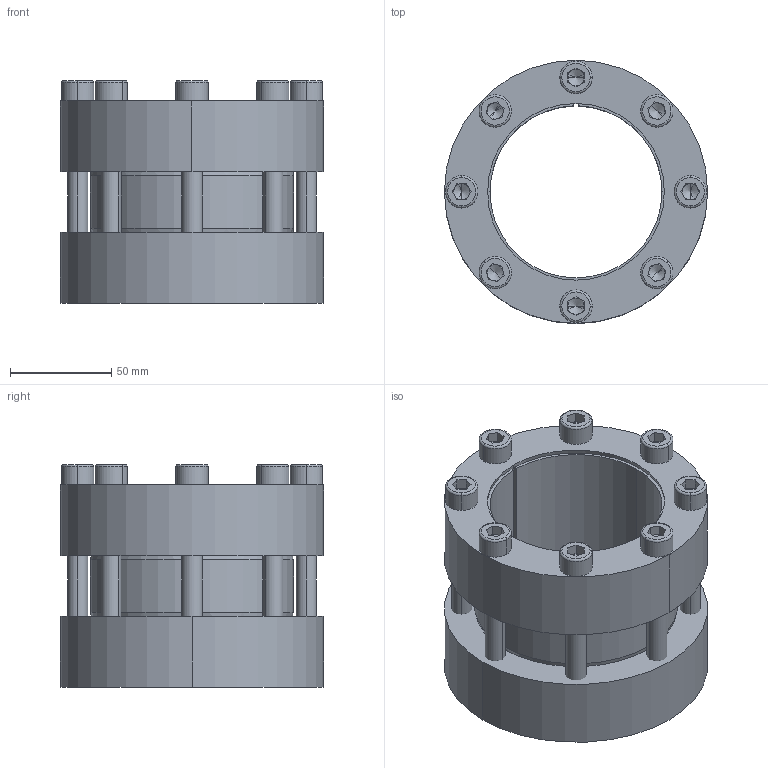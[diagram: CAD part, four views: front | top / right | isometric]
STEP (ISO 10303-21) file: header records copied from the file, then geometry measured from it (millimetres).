
FILE_DESCRIPTION (( 'STEP AP214' ), '1' );
FILE_NAME ('CONEX-M-85x130.step', '2013-04-06T13:26:01', ( 'Pc' ), ( '' ), 'SwSTEP 2.0', 'SolidWorks 2013', '' );
FILE_SCHEMA (( 'AUTOMOTIVE_DESIGN' ));
Length unit declared in the file: millimetre
Products named in the file (1): CONEX-M-85x130
Bounding box: 130 x 130 x 109.99 mm (x, y, z)
Volume: 616574.6 mm3; surface area: 174340.3 mm2
Topology: 11 solids, 11 shells, 276 faces, 622 edges, 368 vertices
Faces by surface type: plane 128, cylinder 74, cone 42, torus 32
Entity records: 10807 total; most frequent: DIRECTION 1446, CARTESIAN_POINT 1278, ORIENTED_EDGE 1212, EDGE_CURVE 606, AXIS2_PLACEMENT_3D 567, VERTEX_POINT 368, EDGE_LOOP 328, LINE 312
